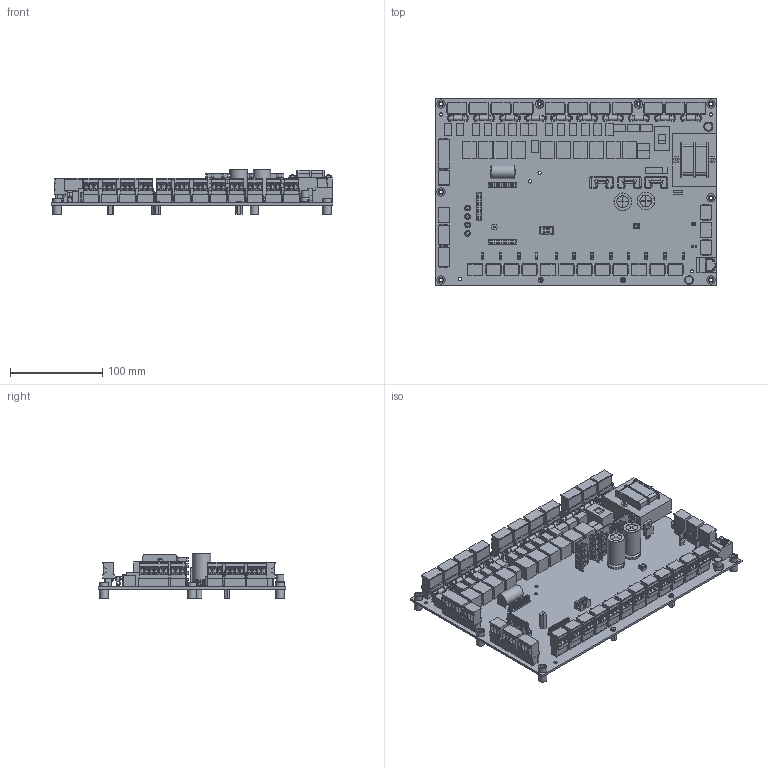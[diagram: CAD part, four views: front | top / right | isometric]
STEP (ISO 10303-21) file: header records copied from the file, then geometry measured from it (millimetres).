
FILE_DESCRIPTION((' '),'2;1');
FILE_NAME('S:\Drawings - Mcs Hardware\Electrical Parts\MCS-Magnum-N\MCS-Magnum.stp','2018-01-18T15:20:35',(' '),(' '),' ','ACIS',' ');
FILE_SCHEMA(('CONFIG_CONTROL_DESIGN'));
Length unit declared in the file: inch
Products named in the file (356): S:\Drawings - Mcs Hardware\Electrical Parts\MCS-Magnum-N\MCS-Magnum.stp; Body1; Body2; Body3; Body4; Body5; Body6; Body7; Body8; Body9; Body10; Body11; Body12; Body13; Body14; Body15; Body16; Body17; Body18; Body19; Body20; Body21; Body22; Body23; Body24; Body25; Body26; Body27; Body28; Body29; Body30; Body31; Body32; Body33; Body34; Body35; Body36; Body37; Body38; Body39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
Assembly tree (355 placements, depth 2):
  S:\Drawings - Mcs Hardware\Electrical Parts\MCS-Magnum-N\MCS-Magnum.stp
    Body1
    Body2
    Body3
    Body4
    Body5
    Body6
    Body7
    Body8
    Body9
    Body10
    Body11
    Body12
    Body13
    Body14
    Body15
    Body16
    Body17
    Body18
    Body19
    Body20
    Body21
    Body22
    Body23
    Body24
    Body25
    Body26
    Body27
    Body28
    Body29
    Body30
    Body31
    Body32
    Body33
    Body34
    Body35
    Body36
    Body37
    Body38
    Body39
    Body40
    Body41
    Body42
    Body43
    Body44
    Body45
    Body46
    Body47
    Body48
    Body49
    Body50
    Body51
    Body52
    Body53
    Body54
    Body55
    Body56
    Body57
    Body58
    Body59
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Bounding box: 304.8 x 203.2 x 48.48 mm (x, y, z)
Volume: 486419.6 mm3; surface area: 353101 mm2
Topology: 355 solids, 355 shells, 7474 faces, 19145 edges, 12608 vertices
Faces by surface type: plane 6444, cylinder 895, cone 99, torus 22, bspline 10, sphere 4
Full cylindrical faces by diameter (mm): 0.397 x10, 1.016 x4, 1.143 x8, 1.422 x4, 2.032 x4, 2.692 x2, 2.921 x2, 3.048 x4, 3.429 x33, 3.978 x2, 4.092 x12, 4.112 x10, 4.508 x1, 4.509 x9, 5.08 x20, 5.359 x2, 5.537 x16, 6.134 x8, 8.255 x2, 8.89 x16, 12.7 x4, 14.44 x1, 19.04 x4
Entity records: 274077 total; most frequent: CARTESIAN_POINT 41875, ORIENTED_EDGE 37490, DIRECTION 36792, EDGE_CURVE 18745, VECTOR 15892, LINE 15892, VERTEX_POINT 12517, AXIS2_PLACEMENT_3D 10450
